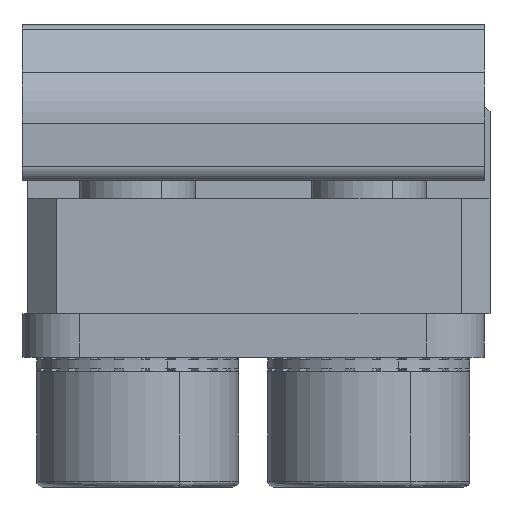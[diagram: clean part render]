
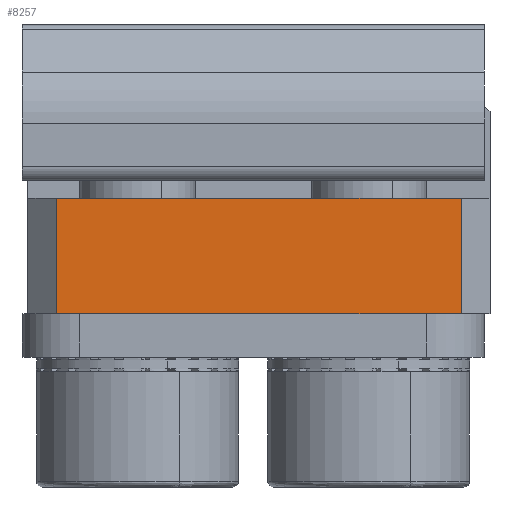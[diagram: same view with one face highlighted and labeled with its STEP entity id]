
A CAD part, front view. The second image highlights one B-rep face of the part: STEP entity #8257.
In plain terms, the highlighted planar face has unit normal (0, -1, 0).
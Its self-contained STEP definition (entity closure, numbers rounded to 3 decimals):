
#355 = FACE_OUTER_BOUND ( 'NONE', #23644, .T. ) ;
#412 = LINE ( 'NONE', #17499, #25100 ) ;
#477 = CARTESIAN_POINT ( 'NONE',  ( 9.006, -10.308, 0. ) ) ;
#990 = DIRECTION ( 'NONE',  ( 0., -1., 0. ) ) ;
#1900 = CARTESIAN_POINT ( 'NONE',  ( -4.994, -10.308, 0. ) ) ;
#1976 = ORIENTED_EDGE ( 'NONE', *, *, #11280, .T. ) ;
#2229 = EDGE_CURVE ( 'NONE', #21970, #8415, #10326, .T. ) ;
#2976 = CARTESIAN_POINT ( 'NONE',  ( 2.006, -10.308, 0. ) ) ;
#3202 = ORIENTED_EDGE ( 'NONE', *, *, #13190, .T. ) ;
#3611 = CARTESIAN_POINT ( 'NONE',  ( 9.006, -10.308, -4. ) ) ;
#4827 = PLANE ( 'NONE',  #6404 ) ;
#4982 = DIRECTION ( 'NONE',  ( 1., 0., 0. ) ) ;
#6404 = AXIS2_PLACEMENT_3D ( 'NONE', #12686, #990, #14656 ) ;
#6543 = LINE ( 'NONE', #2976, #16965 ) ;
#8257 = ADVANCED_FACE ( 'NONE', ( #355 ), #4827, .T. ) ;
#8415 = VERTEX_POINT ( 'NONE', #3611 ) ;
#9108 = VECTOR ( 'NONE', #24684, 1000. ) ;
#9377 = EDGE_CURVE ( 'NONE', #25034, #12682, #6543, .T. ) ;
#10279 = CARTESIAN_POINT ( 'NONE',  ( -4.994, -10.308, -4. ) ) ;
#10326 = LINE ( 'NONE', #24406, #20141 ) ;
#11280 = EDGE_CURVE ( 'NONE', #12682, #21970, #19565, .T. ) ;
#12682 = VERTEX_POINT ( 'NONE', #1900 ) ;
#12686 = CARTESIAN_POINT ( 'NONE',  ( -4.994, -10.308, -4. ) ) ;
#12971 = ORIENTED_EDGE ( 'NONE', *, *, #9377, .T. ) ;
#13190 = EDGE_CURVE ( 'NONE', #8415, #25034, #412, .T. ) ;
#14656 = DIRECTION ( 'NONE',  ( 1., 0., 0. ) ) ;
#16672 = DIRECTION ( 'NONE',  ( -1., 0., 0. ) ) ;
#16965 = VECTOR ( 'NONE', #16672, 1000. ) ;
#17499 = CARTESIAN_POINT ( 'NONE',  ( 9.006, -10.308, -2. ) ) ;
#17591 = DIRECTION ( 'NONE',  ( 0., 0., 1. ) ) ;
#18825 = ORIENTED_EDGE ( 'NONE', *, *, #2229, .T. ) ;
#18962 = CARTESIAN_POINT ( 'NONE',  ( -4.994, -10.308, -2. ) ) ;
#19565 = LINE ( 'NONE', #18962, #9108 ) ;
#20141 = VECTOR ( 'NONE', #4982, 1000. ) ;
#21970 = VERTEX_POINT ( 'NONE', #10279 ) ;
#23644 = EDGE_LOOP ( 'NONE', ( #18825, #3202, #12971, #1976 ) ) ;
#24406 = CARTESIAN_POINT ( 'NONE',  ( 2.006, -10.308, -4. ) ) ;
#24684 = DIRECTION ( 'NONE',  ( 0., 0., -1. ) ) ;
#25034 = VERTEX_POINT ( 'NONE', #477 ) ;
#25100 = VECTOR ( 'NONE', #17591, 1000. ) ;
